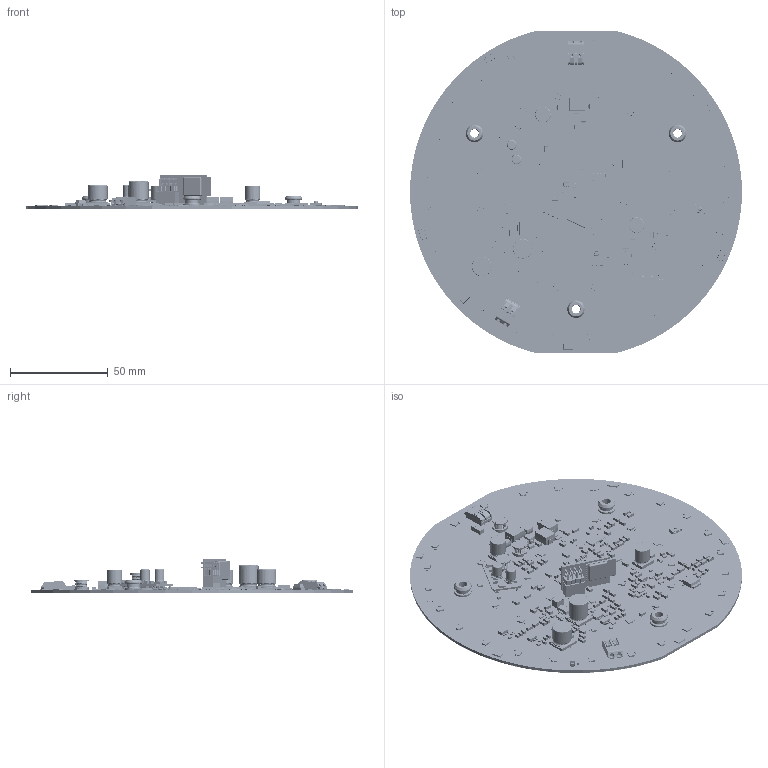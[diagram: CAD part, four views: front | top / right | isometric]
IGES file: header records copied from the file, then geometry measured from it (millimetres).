
Start section: SolidWorks IGES file using analytic representation for surfaces
Global section: file name: F:\Heren\32 Flat AC Wireless\Drawing\3D\1500 BL\FLAT-AC-wireless  BL-1500.IGS; native system: SolidWorks 2023; preprocessor: SolidWorks 2023; author: H.Yi; date: 230707.044129; units: millimetre
Bounding box: 170 x 165 x 17.6 mm (x, y, z)
Surface area: 63507.2 mm2 (no closed solid volume)
Topology: 0 solids, 0 shells, 10860 faces, 63592 edges, 63571 vertices
Faces by surface type: bspline 9194, revolution 1666
